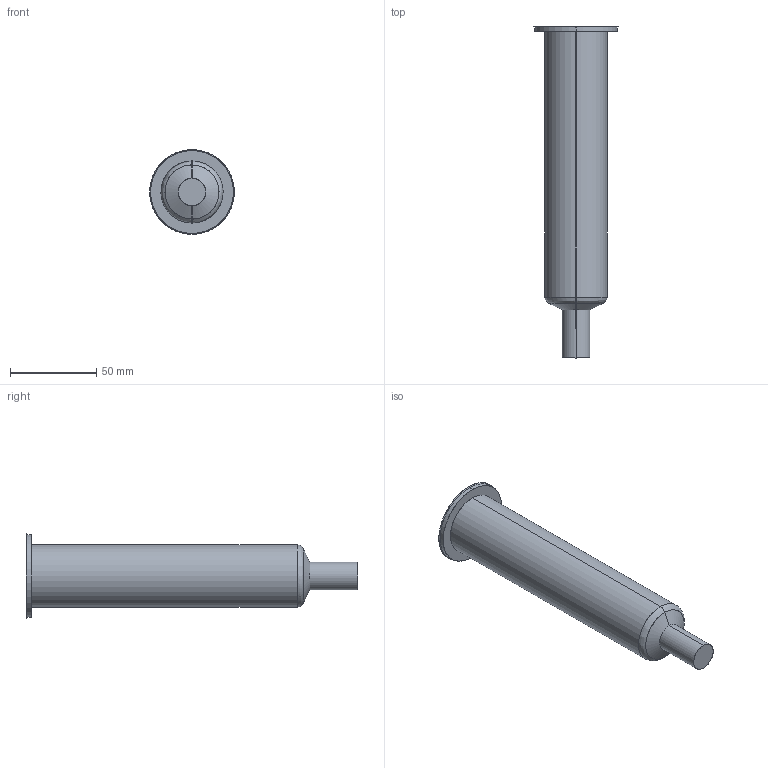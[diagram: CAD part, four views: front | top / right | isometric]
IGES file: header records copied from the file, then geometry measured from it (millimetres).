
Start section: SolidWorks IGES file using analytic representation for surfaces
Global section: file name: C:\Documents and Settings\ws-20\Desktop\TEMPORANEA\Sede UGBE5004-M-A C-164 L-184 P-25.IGS; native system: SolidWorks 2012; preprocessor: SolidWorks 2012; author: ws-20; date: 120307.090755; units: millimetre
Bounding box: 49 x 192.42 x 49 mm (x, y, z)
Surface area: 23333.1 mm2 (no closed solid volume)
Topology: 0 solids, 0 shells, 15 faces, 272 edges, 272 vertices
Faces by surface type: revolution 10, bspline 5
